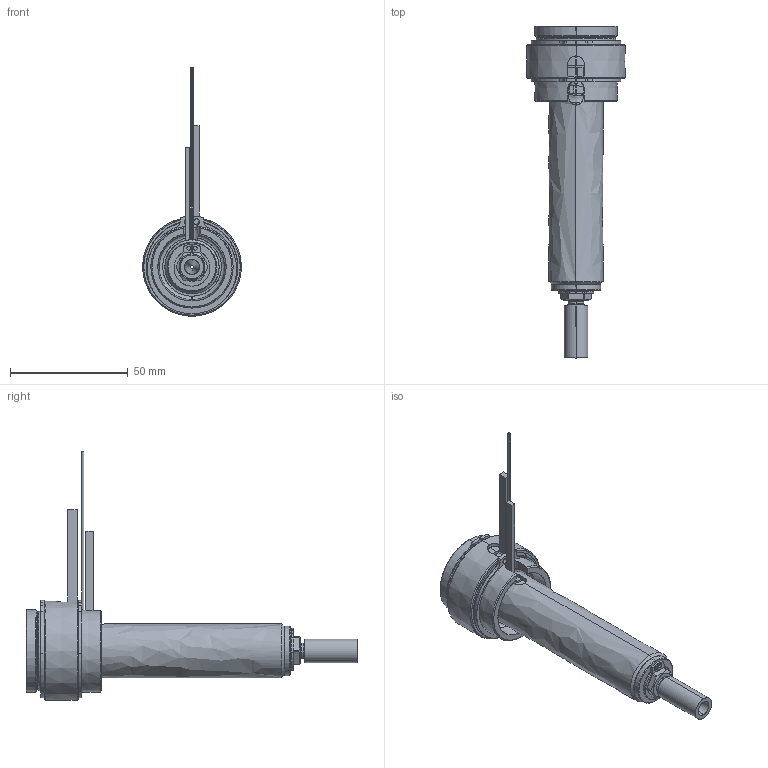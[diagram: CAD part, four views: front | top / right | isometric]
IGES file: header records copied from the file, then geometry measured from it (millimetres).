
Start section: SolidWorks IGES file using analytic representation for surfaces
Global section: file name: C:\Users\luca.EMPAD\Desktop\TEM\UGBE3502-S-A-P-5 [Ød-1.5 P-20 ØC-7.0].IGS; native system: SolidWorks 2012; preprocessor: SolidWorks 2012; author: luca; date: 120330.140445; units: millimetre
Bounding box: 42 x 141 x 105.6 mm (x, y, z)
Surface area: 29599.3 mm2 (no closed solid volume)
Topology: 0 solids, 0 shells, 188 faces, 3506 edges, 3506 vertices
Faces by surface type: revolution 119, bspline 69
